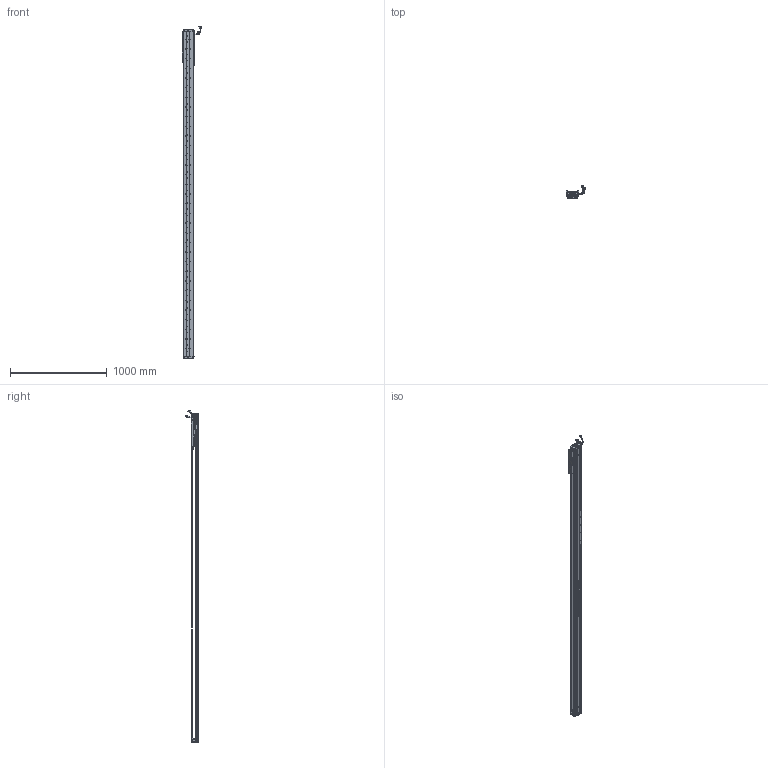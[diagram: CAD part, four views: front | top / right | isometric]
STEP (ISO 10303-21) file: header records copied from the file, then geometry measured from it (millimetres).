
FILE_DESCRIPTION (( 'STEP AP203' ), '1' );
FILE_NAME ('Z4-RY100D-1-L500-B-K.SLDASM_3000.step', '2021-05-17T03:05:29', ( '盈信电脑' ), ( '东莞市道滘镇水果街19号' ), 'SwSTEP 2.0', 'SolidWorks 2016', '' );
FILE_SCHEMA (( 'CONFIG_CONTROL_DESIGN' ));
Length unit declared in the file: millimetre
Products named in the file (36): PSLH080_PSLF2; LABEL; Z-RY100D詩湍奻揤裔; Z-RY100D詩湍狟揤裔; SCALE; COVER; LABEL-Part-1; SCALE-Part-2; COVER-Part-1; PBU_SHEET; 100-Z-臏賑輸盄裔(21遴); SCALE-Part-1; SCREW-M1.6-3; 榋妏寠巭燃_暯_M2_2; SCREW-M1.7-1; Z4-RY100铝滑块（21款）; SCREW-M1.6-2; Z-RY100D覜茼んえ; HARNESS; 080黍杅芛假蚾釱21遴; SCREW-M1.6; Z4-RY100D-1-L500-B-K.SLDASM_3000; 140蚥薯蝶輸; HARNESS-Part-2; HOLDER0; 140雄赽晤鎢ん堤盄; SCREW-M1.7; Z4-RY100-L500詩湍90mm遵_3000; SHIELDPLATE; SEAL-Part-1; SCREW-M1.6-1; Z-100詩湍傷裔啣; HARNESS-Part-1; 覜茼ん672; SEAL; Z4-RY100D-500-倰第菁釱_3000
Assembly tree (43 placements, depth 4):
  Z4-RY100D-1-L500-B-K.SLDASM_3000
    Z4-RY100D-500-倰第菁釱_3000
    Z4-RY100铝滑块（21款）
    PSLH080_PSLF2
      SCALE
        SCALE-Part-1
        SCALE-Part-2
      HARNESS
        HARNESS-Part-1
        HARNESS-Part-2
      LABEL
        LABEL-Part-1
      COVER
        COVER-Part-1
      SEAL
        SEAL-Part-1
      榋妏寠巭燃_暯_M2_2
      SHIELDPLATE
      SCREW-M1.7
      SCREW-M1.7-1
      PBU_SHEET
      SCREW-M1.6
      SCREW-M1.6-1
      SCREW-M1.6-2
      SCREW-M1.6-3
      HOLDER0
    080黍杅芛假蚾釱21遴
    Z-100詩湍傷裔啣  x2
    140蚥薯蝶輸  x2
    覜茼ん672  x3
    Z-RY100D覜茼んえ  x3
    100-Z-臏賑輸盄裔(21遴)
    140雄赽晤鎢ん堤盄
    Z4-RY100-L500詩湍90mm遵_3000
    Z-RY100D詩湍狟揤裔  x2
    Z-RY100D詩湍奻揤裔  x2
Bounding box: 205.79 x 136.11 x 3435.43 mm (x, y, z)
Volume: 6224294.7 mm3; surface area: 2447803.5 mm2
Topology: 38 solids, 38 shells, 3206 faces, 8875 edges, 5684 vertices
Faces by surface type: cylinder 1646, plane 1212, cone 226, torus 69, bspline 53
Entity records: 94963 total; most frequent: CARTESIAN_POINT 19834, DIRECTION 15415, ORIENTED_EDGE 14630, EDGE_CURVE 7315, AXIS2_PLACEMENT_3D 5841, VERTEX_POINT 4752, LINE 3733, VECTOR 3733
